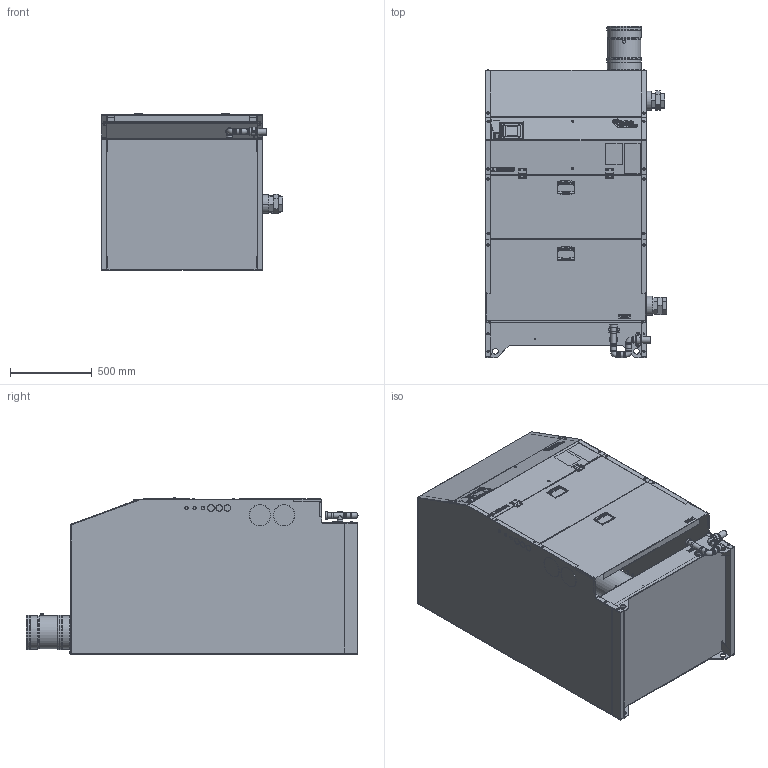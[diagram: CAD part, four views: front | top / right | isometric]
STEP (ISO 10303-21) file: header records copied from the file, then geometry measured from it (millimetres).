
FILE_DESCRIPTION (( 'STEP AP203' ), '1' );
FILE_NAME ('MDL 300-M-E.STEP', '2019-03-08T07:38:14', ( '' ), ( '' ), 'SwSTEP 2.0', 'SolidWorks 2019', '' );
FILE_SCHEMA (( 'CONFIG_CONTROL_DESIGN' ));
Products named in the file (1): MDL 300-M-E
Bounding box: 1106 x 2024.5 x 961.56 mm (x, y, z)
Surface area: 17097089.5 mm2 (no closed solid volume)
Topology: 0 solids, 221 shells, 1075 faces, 7365 edges, 6311 vertices
Faces by surface type: plane 540, cylinder 272, torus 140, sphere 76, bspline 33, cone 14
Full cylindrical faces by diameter (mm): 6.5 x1, 6.8 x1, 8 x3, 8.9 x1, 9 x1, 10 x1, 14 x13, 18 x1, 32.5 x2, 34 x8, 35 x4, 36 x5, 36.5 x1, 38 x1, 40 x4, 44 x1, 45 x1, 48 x1, 52 x1, 76.1 x2, 198 x1, 200 x3, 204 x2, 206 x5, 208 x1, 210 x3, 223 x1
Entity records: 80067 total; most frequent: CARTESIAN_POINT 27953, DIRECTION 9935, ORIENTED_EDGE 8456, EDGE_CURVE 7133, VERTEX_POINT 6247, LINE 4367, VECTOR 4367, AXIS2_PLACEMENT_3D 2784
